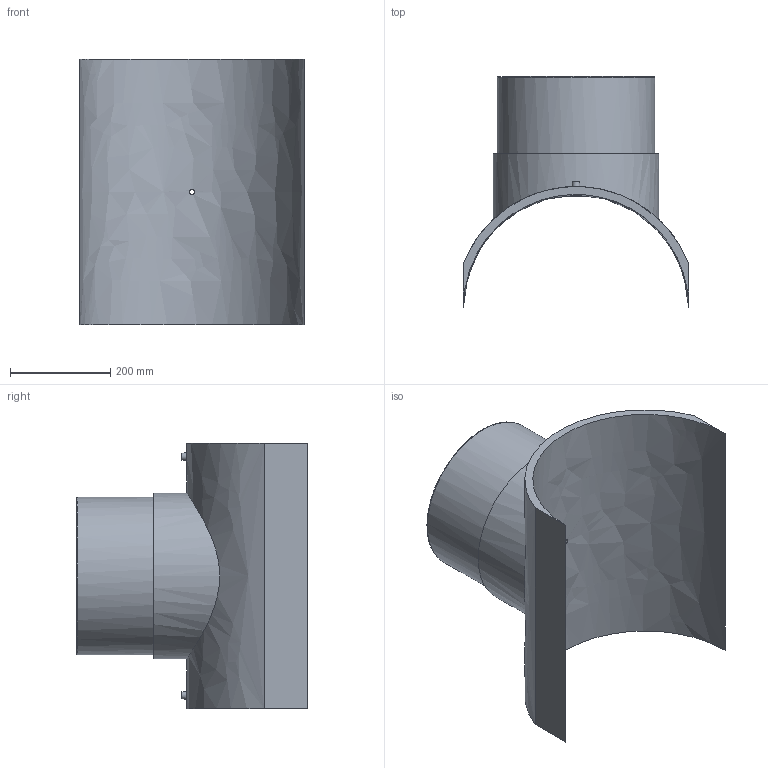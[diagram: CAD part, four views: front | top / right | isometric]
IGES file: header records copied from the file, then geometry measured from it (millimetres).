
Global section: file name: 495803450315T; native system: Autodesk Inventor 2019; preprocessor: unknown; author: KIM; date: 20240404.115111; units: millimetre
Bounding box: 450 x 461 x 530 mm (x, y, z)
Volume: 12819689.6 mm3; surface area: 1241165.4 mm2
Topology: 1 solids, 1 shells, 29 faces, 60 edges, 43 vertices
Faces by surface type: bspline 29
